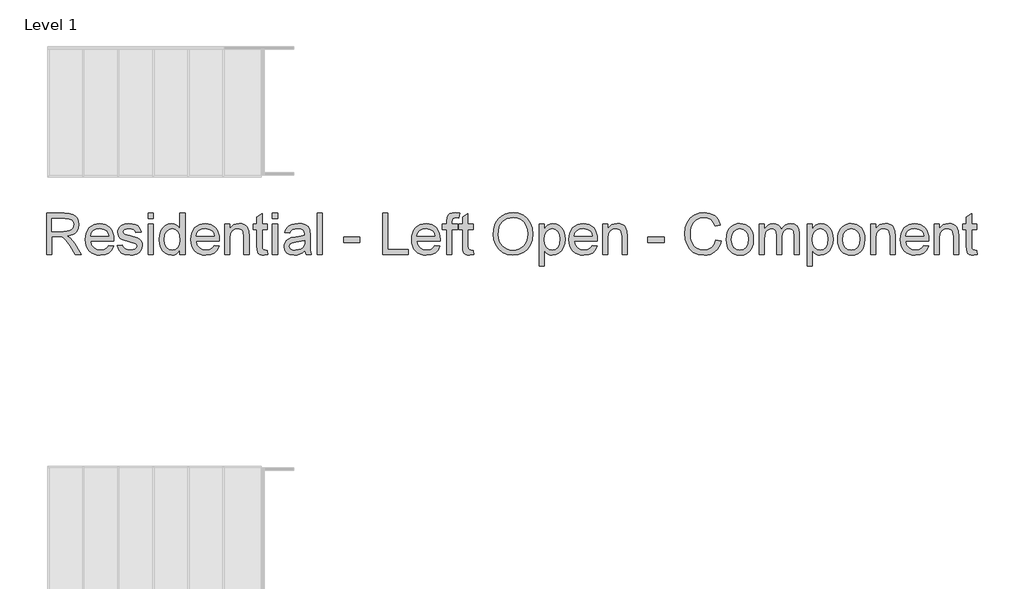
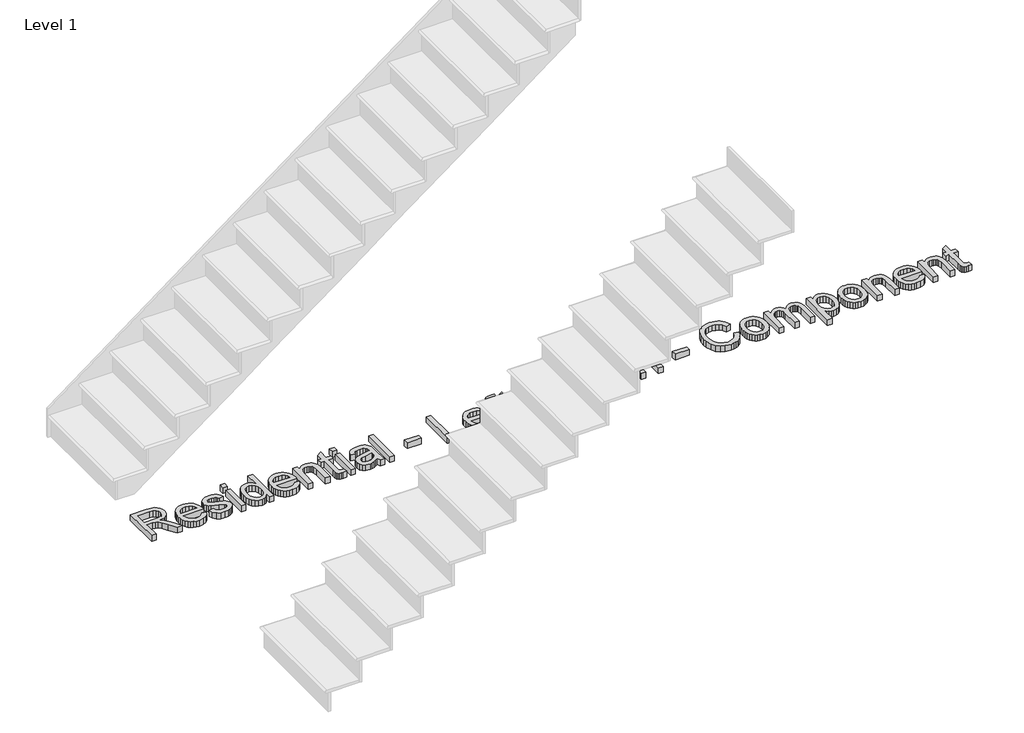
# One storey, part 9 of 15: 1 proxy.
"""IFC4 building model written with IfcOpenShell, lengths in millimetres."""

from ifc_helpers import new_model, si_unit, origin, origin_with_axes, place, context, project, spatial, polyline, outline, extrude, element, save

model = new_model("IFC4")

# Units and contexts
model_context = context("Model", 3, world=origin())
ifc_project = project(units=[si_unit("LENGTHUNIT", "METRE", prefix="MILLI")], contexts=[model_context])

# Site, building, storey
site = spatial("IfcSite", under=ifc_project)
building = spatial("IfcBuilding", under=site)
storey = spatial("IfcBuildingStorey", under=building, Name="Level 1", Elevation=0.0)

# Proxy
placement = place(None, origin())
element("IfcBuildingElementProxy", 1, Name="12\" Arial", ObjectType="12\" Arial", at=placement, inside=storey, context=model_context, shape_type="SweptSolid", body=[
    extrude(outline(polyline([(-27238.310174, 321.1208755), (-27238.310174, 621.2316447), (-27108.9899817, 621.2316447), (-27074.2328904, 619.2075822), (-27048.9458471, 613.1353947), (-27030.4636837, 601.9252024), (-27016.1212317, 584.4871255), (-27006.9167846, 562.8635438), (-27003.8486356, 539.096837), (-27008.9316885, 509.5327024), (-27024.1808471, 485.0241447), (-27035.7321993, 475.0366327), (-27050.0540442, 467.0548659), (-27087.0092125, 457.1085678), (-27065.6878664, 441.0626063), (-27035.2811356, 402.4497216), (-26985.238251, 321.1208755), (-27028.8334433, 321.1208755), (-27067.8859433, 383.3264524), (-27096.0945971, 424.5037601), (-27115.913924, 443.9567409), (-27133.7549817, 451.1004909), (-27155.5159433, 452.419337), (-27200.7963279, 452.419337), (-27200.7963279, 321.1208755), (-27238.310174, 321.1208755)]), holes=[polyline([(-27200.7963279, 489.9331832), (-27116.8297894, 489.9331832), (-27092.7150539, 491.261188), (-27074.003924, 495.2452024), (-27059.9179144, 502.1508274), (-27049.6785394, 512.2436639), (-27043.4414962, 524.4521495), (-27041.3624817, 537.7047216), (-27045.3281789, 556.003712), (-27057.2252702, 570.7491447), (-27077.6948615, 580.4756351), (-27107.3780587, 583.7177986), (-27200.7963279, 583.7177986), (-27200.7963279, 489.9331832)])]), origin_with_axes(), (0.0, 0.0, 1.0), 50.8),
    extrude(outline(polyline([(-26788.5836356, 386.7701063), (-26751.8024817, 382.0808755), (-26765.0550539, 354.3667889), (-26786.2023856, 333.6499139), (-26814.7682269, 320.736212), (-26850.2763279, 316.4316447), (-26873.5530466, 318.2885618), (-26894.2928183, 323.859313), (-26912.4956428, 333.1438983), (-26928.1615202, 346.1423178), (-26940.7592486, 362.4928046), (-26949.757626, 381.8335918), (-26955.1566524, 404.1646796), (-26956.9563279, 429.4860678), (-26955.1383351, 455.6660798), (-26949.6843567, 478.7413082), (-26940.5943928, 498.7117529), (-26927.8684433, 515.5774139), (-26912.2437798, 528.9765245), (-26894.457674, 538.5473178), (-26874.510126, 544.2897938), (-26852.4011356, 546.2039524), (-26831.0042305, 544.2943731), (-26811.6542846, 538.5656351), (-26794.3512978, 529.0177385), (-26779.0952702, 515.6506832), (-26766.6417906, 498.8216567), (-26757.7464481, 478.8878466), (-26752.4092426, 455.8492529), (-26750.630174, 429.7058755), (-26750.8499817, 419.5947216), (-26919.4424817, 419.5947216), (-26912.9489962, 391.5142889), (-26897.8646933, 370.8706832), (-26876.0945731, 358.1767889), (-26849.5436356, 353.9454909), (-26829.5777702, 355.9054428), (-26812.7624817, 361.7852986), (-26799.0977702, 371.9514043), (-26788.5836356, 386.7701063)]), holes=[polyline([(-26919.4424817, 457.1085678), (-26788.1440202, 457.1085678), (-26793.2179144, 476.9278947), (-26803.1642125, 491.1054909), (-26825.0350779, 504.2939524), (-26852.547674, 508.6901063), (-26877.8347173, 505.1823418), (-26898.743924, 494.6590486), (-26913.2787077, 478.2558995), (-26919.4424817, 457.1085678)])]), origin_with_axes(), (0.0, 0.0, 1.0), 50.8),
    extrude(outline(polyline([(-26727.1840202, 386.7701063), (-26689.670174, 391.459337), (-26683.7536837, 375.4133755), (-26672.3053664, 363.6170293), (-26655.2519529, 356.3633755), (-26632.520174, 353.9454909), (-26610.0631548, 356.1618851), (-26594.2736356, 362.8110678), (-26584.9318087, 372.4459716), (-26581.8178664, 383.6195293), (-26584.950126, 393.1811639), (-26594.3469048, 400.4714524), (-26632.9597894, 411.1687601), (-26689.4503664, 429.5227024), (-26703.747025, 438.7454668), (-26714.1054625, 450.9539524), (-26720.3974577, 465.3696736), (-26722.4947894, 481.2141447), (-26720.8095971, 495.7489284), (-26715.7540202, 509.1663563), (-26707.7859914, 520.9352264), (-26697.3634433, 530.524337), (-26673.5143087, 541.6246255), (-26641.2392125, 546.2039524), (-26616.8222414, 544.363063), (-26595.5924817, 538.8403947), (-26578.520751, 530.1763082), (-26566.5778664, 518.9111639), (-26558.6647894, 504.2115245), (-26553.6824817, 485.2439524), (-26591.1963279, 480.5547216), (-26595.9313519, 492.3602264), (-26605.3006548, 501.2532793), (-26619.3958231, 506.8308995), (-26638.3084433, 508.6901063), (-26659.8495971, 506.9133274), (-26674.2103664, 501.5829909), (-26682.288299, 493.8897216), (-26684.9809433, 485.0241447), (-26680.5115202, 474.1070293), (-26666.5170971, 465.8276063), (-26634.2053664, 457.8412601), (-26579.1435394, 440.1833755), (-26564.5995971, 431.7390966), (-26553.5725779, 420.1808755), (-26546.6211596, 405.4720774), (-26544.3040202, 387.5760678), (-26547.0241404, 369.075587), (-26555.184501, 351.6741447), (-26568.4737077, 336.7363803), (-26586.5803664, 325.6269332), (-26608.4512317, 318.7304668), (-26633.0330587, 316.4316447), (-26670.858299, 320.8644332), (-26698.4624817, 334.1627986), (-26716.8896933, 356.1802024), (-26727.1840202, 386.7701063)])), origin_with_axes(), (0.0, 0.0, 1.0), 50.8),
    extrude(outline(polyline([(-26502.1009433, 321.1208755), (-26502.1009433, 541.5147216), (-26464.5870971, 541.5147216), (-26464.5870971, 321.1208755), (-26502.1009433, 321.1208755)])), origin_with_axes(), (0.0, 0.0, 1.0), 50.8),
    extrude(outline(polyline([(-26502.1009433, 583.7177986), (-26502.1009433, 621.2316447), (-26464.5870971, 621.2316447), (-26464.5870971, 583.7177986), (-26502.1009433, 583.7177986)])), origin_with_axes(), (0.0, 0.0, 1.0), 50.8),
    extrude(outline(polyline([(-26272.3286356, 321.1208755), (-26272.3286356, 356.5099139), (-26283.5525659, 338.9756712), (-26297.1485875, 326.451212), (-26313.1167005, 318.9365365), (-26331.4569048, 316.4316447), (-26355.7090202, 320.0584716), (-26377.9095971, 330.9389524), (-26396.7031548, 348.3129188), (-26410.7342125, 371.4202024), (-26419.4715683, 399.3266207), (-26422.3840202, 431.0979909), (-26419.7005346, 462.4755389), (-26411.6500779, 490.8124139), (-26398.2418087, 514.4966928), (-26379.4848856, 531.9164524), (-26356.7989, 542.6320774), (-26331.6034433, 546.2039524), (-26313.249501, 543.648688), (-26297.0203664, 535.9828947), (-26283.2640683, 524.2323418), (-26272.3286356, 509.4227986), (-26272.3286356, 621.2316447), (-26234.8147894, 621.2316447), (-26234.8147894, 321.1208755), (-26272.3286356, 321.1208755)]), holes=[polyline([(-26384.870174, 431.2445293), (-26380.638876, 397.3117168), (-26367.9449817, 373.1786639), (-26349.4994529, 358.7537841), (-26328.013251, 353.9454909), (-26306.5362077, 358.5339764), (-26288.5577702, 372.2994332), (-26276.3859192, 395.4983034), (-26272.3286356, 428.3870293), (-26276.4591885, 464.3439043), (-26288.8508471, 489.2737601), (-26307.2872173, 503.8360197), (-26329.5519048, 508.6901063), (-26351.2579144, 504.0283514), (-26369.0440202, 490.043087), (-26380.9136356, 466.019938), (-26384.870174, 431.2445293)])]), origin_with_axes(), (0.0, 0.0, 1.0), 50.8),
    extrude(outline(polyline([(-26024.2390202, 386.7701063), (-25987.4578664, 382.0808755), (-26000.7104385, 354.3667889), (-26021.8577702, 333.6499139), (-26050.4236115, 320.736212), (-26085.9317125, 316.4316447), (-26109.2084313, 318.2885618), (-26129.9482029, 323.859313), (-26148.1510274, 333.1438983), (-26163.8169048, 346.1423178), (-26176.4146332, 362.4928046), (-26185.4130106, 381.8335918), (-26190.812037, 404.1646796), (-26192.6117125, 429.4860678), (-26190.7937197, 455.6660798), (-26185.3397414, 478.7413082), (-26176.2497774, 498.7117529), (-26163.5238279, 515.5774139), (-26147.8991644, 528.9765245), (-26130.1130587, 538.5473178), (-26110.1655106, 544.2897938), (-26088.0565202, 546.2039524), (-26066.6596152, 544.2943731), (-26047.3096692, 538.5656351), (-26030.0066825, 529.0177385), (-26014.7506548, 515.6506832), (-26002.2971753, 498.8216567), (-25993.4018327, 478.8878466), (-25988.0646272, 455.8492529), (-25986.2855587, 429.7058755), (-25986.5053664, 419.5947216), (-26155.0978664, 419.5947216), (-26148.6043808, 391.5142889), (-26133.5200779, 370.8706832), (-26111.7499577, 358.1767889), (-26085.1990202, 353.9454909), (-26065.2331548, 355.9054428), (-26048.4178664, 361.7852986), (-26034.7531548, 371.9514043), (-26024.2390202, 386.7701063)]), holes=[polyline([(-26155.0978664, 457.1085678), (-26023.7994048, 457.1085678), (-26028.873299, 476.9278947), (-26038.8195971, 491.1054909), (-26060.6904625, 504.2939524), (-26088.2030587, 508.6901063), (-26113.4901019, 505.1823418), (-26134.3993087, 494.6590486), (-26148.9340923, 478.2558995), (-26155.0978664, 457.1085678)])]), origin_with_axes(), (0.0, 0.0, 1.0), 50.8),
    extrude(outline(polyline([(-25948.7717125, 321.1208755), (-25948.7717125, 541.5147216), (-25911.2578664, 541.5147216), (-25911.2578664, 510.7416447), (-25898.2251019, 526.2564043), (-25882.5729625, 537.3383755), (-25864.3014481, 543.9875582), (-25843.4105587, 546.2039524), (-25824.9192365, 544.4180149), (-25807.9848856, 539.0602024), (-25793.8622414, 530.7990966), (-25783.8060394, 520.3032793), (-25772.5592125, 492.7174139), (-25770.5809433, 456.4491447), (-25770.5809433, 321.1208755), (-25808.0947894, 321.1208755), (-25808.0947894, 451.3935678), (-25812.417674, 484.5845293), (-25818.398275, 494.4667168), (-25827.6943087, 502.1325101), (-25839.6097173, 507.0507072), (-25853.4484433, 508.6901063), (-25875.4200539, 505.0083274), (-25894.149501, 493.9629909), (-25901.6344108, 484.9462962), (-25906.980775, 472.6233274), (-25911.2578664, 438.0585678), (-25911.2578664, 321.1208755), (-25948.7717125, 321.1208755)])), origin_with_axes(), (0.0, 0.0, 1.0), 50.8),
    extrude(outline(polyline([(-25639.2824817, 352.406837), (-25634.593251, 320.021837), (-25662.6553664, 316.4316447), (-25680.6612798, 317.9886159), (-25694.0878664, 322.6595293), (-25703.5762317, 329.8582313), (-25709.7674817, 338.9985678), (-25713.174501, 354.6965005), (-25714.310174, 381.5679909), (-25714.310174, 504.0008755), (-25742.4455587, 504.0008755), (-25742.4455587, 541.5147216), (-25714.310174, 541.5147216), (-25714.310174, 595.0745293), (-25676.7963279, 617.1285678), (-25676.7963279, 541.5147216), (-25639.2824817, 541.5147216), (-25639.2824817, 504.0008755), (-25676.7963279, 504.0008755), (-25676.7963279, 382.6670293), (-25674.8180587, 363.3239524), (-25668.407001, 356.4732793), (-25655.6215202, 353.9454909), (-25639.2824817, 352.406837)])), origin_with_axes(), (0.0, 0.0, 1.0), 50.8),
    extrude(outline(polyline([(-25601.7686356, 321.1208755), (-25601.7686356, 541.5147216), (-25564.2547894, 541.5147216), (-25564.2547894, 321.1208755), (-25601.7686356, 321.1208755)])), origin_with_axes(), (0.0, 0.0, 1.0), 50.8),
    extrude(outline(polyline([(-25601.7686356, 583.7177986), (-25601.7686356, 621.2316447), (-25564.2547894, 621.2316447), (-25564.2547894, 583.7177986), (-25601.7686356, 583.7177986)])), origin_with_axes(), (0.0, 0.0, 1.0), 50.8),
    extrude(outline(polyline([(-25367.3070971, 349.2562601), (-25385.2305827, 333.8880389), (-25403.6852702, 323.831837), (-25423.0924577, 318.2816928), (-25443.8734433, 316.4316447), (-25475.2235154, 320.8827505), (-25498.3491164, 334.2360678), (-25512.6091404, 354.5133274), (-25517.3624817, 379.7362601), (-25515.5673856, 395.2876543), (-25510.1820971, 409.4102986), (-25501.8751981, 421.4997216), (-25491.3152702, 430.9514524), (-25465.048251, 443.2606832), (-25432.5899817, 448.9024139), (-25394.2335394, 454.8372216), (-25367.5269048, 461.7977986), (-25367.3070971, 470.1504909), (-25369.8898375, 486.8925101), (-25377.6380587, 497.8462601), (-25394.9662317, 505.9791447), (-25419.1084433, 508.6901063), (-25441.4555587, 506.8858514), (-25457.0619048, 501.473087), (-25467.7042606, 491.4626784), (-25475.1594048, 475.8654909), (-25512.673251, 480.5547216), (-25506.1614481, 501.0701063), (-25496.4441164, 517.189337), (-25482.614549, 529.5168851), (-25463.7660394, 538.6572216), (-25440.7137077, 544.3172697), (-25414.272674, 546.2039524), (-25388.9123615, 544.5370774), (-25368.8091164, 539.5364524), (-25353.6515442, 532.0171976), (-25343.128251, 522.7944332), (-25336.1493567, 511.3919091), (-25331.6249817, 497.3333755), (-25329.793251, 464.5087601), (-25329.793251, 417.8362601), (-25327.888251, 352.6632793), (-25320.4147894, 321.1208755), (-25357.9286356, 321.1208755), (-25367.3070971, 349.2562601)]), holes=[polyline([(-25367.3070971, 424.2839524), (-25427.8274817, 412.7806832), (-25460.1025779, 406.699337), (-25474.7197894, 396.8079909), (-25479.8486356, 382.3739524), (-25477.0552462, 371.218712), (-25468.6750779, 362.0783755), (-25454.8913039, 355.978712), (-25435.8870971, 353.9454909), (-25415.7380587, 356.1893611), (-25397.9336356, 362.9209716), (-25383.4995971, 372.8397938), (-25373.4617125, 384.6452986), (-25369.0106067, 396.8079909), (-25367.5269048, 413.6599139), (-25367.3070971, 424.2839524)])]), origin_with_axes(), (0.0, 0.0, 1.0), 50.8),
    extrude(outline(polyline([(-25278.2117125, 321.1208755), (-25278.2117125, 621.2316447), (-25240.6978664, 621.2316447), (-25240.6978664, 321.1208755), (-25278.2117125, 321.1208755)])), origin_with_axes(), (0.0, 0.0, 1.0), 50.8),
    extrude(outline(polyline([(-25085.953251, 410.2162601), (-25085.953251, 447.7301063), (-24968.7224817, 447.7301063), (-24968.7224817, 410.2162601), (-25085.953251, 410.2162601)])), origin_with_axes(), (0.0, 0.0, 1.0), 50.8),
    extrude(outline(polyline([(-24804.5994048, 321.1208755), (-24804.5994048, 621.2316447), (-24767.0855587, 621.2316447), (-24767.0855587, 358.6347216), (-24617.030174, 358.6347216), (-24617.030174, 321.1208755), (-24804.5994048, 321.1208755)])), origin_with_axes(), (0.0, 0.0, 1.0), 50.8),
    extrude(outline(polyline([(-24425.2113279, 386.7701063), (-24388.430174, 382.0808755), (-24401.6827462, 354.3667889), (-24422.8300779, 333.6499139), (-24451.3959192, 320.736212), (-24486.9040202, 316.4316447), (-24510.180739, 318.2885618), (-24530.9205106, 323.859313), (-24549.1233351, 333.1438983), (-24564.7892125, 346.1423178), (-24577.3869409, 362.4928046), (-24586.3853183, 381.8335918), (-24591.7843447, 404.1646796), (-24593.5840202, 429.4860678), (-24591.7660274, 455.6660798), (-24586.312049, 478.7413082), (-24577.2220851, 498.7117529), (-24564.4961356, 515.5774139), (-24548.8714721, 528.9765245), (-24531.0853664, 538.5473178), (-24511.1378183, 544.2897938), (-24489.0288279, 546.2039524), (-24467.6319228, 544.2943731), (-24448.2819769, 538.5656351), (-24430.9789902, 529.0177385), (-24415.7229625, 515.6506832), (-24403.2694829, 498.8216567), (-24394.3741404, 478.8878466), (-24389.0369349, 455.8492529), (-24387.2578664, 429.7058755), (-24387.477674, 419.5947216), (-24556.070174, 419.5947216), (-24549.5766885, 391.5142889), (-24534.4923856, 370.8706832), (-24512.7222654, 358.1767889), (-24486.1713279, 353.9454909), (-24466.2054625, 355.9054428), (-24449.390174, 361.7852986), (-24435.7254625, 371.9514043), (-24425.2113279, 386.7701063)]), holes=[polyline([(-24556.070174, 457.1085678), (-24424.7717125, 457.1085678), (-24429.8456067, 476.9278947), (-24439.7919048, 491.1054909), (-24461.6627702, 504.2939524), (-24489.1753664, 508.6901063), (-24514.4624096, 505.1823418), (-24535.3716164, 494.6590486), (-24549.9064, 478.2558995), (-24556.070174, 457.1085678)])]), origin_with_axes(), (0.0, 0.0, 1.0), 50.8),
    extrude(outline(polyline([(-24340.3655587, 321.1208755), (-24340.3655587, 504.0008755), (-24373.190174, 504.0008755), (-24373.190174, 541.5147216), (-24340.3655587, 541.5147216), (-24340.3655587, 563.7152986), (-24336.4090202, 595.0012601), (-24328.8622894, 607.4753466), (-24317.2124817, 617.3483755), (-24300.9100779, 623.7777505), (-24279.4055587, 625.9208755), (-24245.1888279, 621.8177986), (-24250.6840202, 586.6485678), (-24272.2984433, 588.4070293), (-24286.5584673, 586.8500582), (-24295.9277702, 582.1791447), (-24301.1207269, 573.2586159), (-24302.8517125, 558.9527986), (-24302.8517125, 541.5147216), (-24260.6486356, 541.5147216), (-24260.6486356, 504.0008755), (-24302.8517125, 504.0008755), (-24302.8517125, 321.1208755), (-24340.3655587, 321.1208755)])), origin_with_axes(), (0.0, 0.0, 1.0), 50.8),
    extrude(outline(polyline([(-24148.1070971, 352.406837), (-24143.4178664, 320.021837), (-24171.4799817, 316.4316447), (-24189.4858952, 317.9886159), (-24202.9124817, 322.6595293), (-24212.4008471, 329.8582313), (-24218.5920971, 338.9985678), (-24221.9991164, 354.6965005), (-24223.1347894, 381.5679909), (-24223.1347894, 504.0008755), (-24251.270174, 504.0008755), (-24251.270174, 541.5147216), (-24223.1347894, 541.5147216), (-24223.1347894, 595.0745293), (-24185.6209433, 617.1285678), (-24185.6209433, 541.5147216), (-24148.1070971, 541.5147216), (-24148.1070971, 504.0008755), (-24185.6209433, 504.0008755), (-24185.6209433, 382.6670293), (-24183.642674, 363.3239524), (-24177.2316164, 356.4732793), (-24164.4461356, 353.9454909), (-24148.1070971, 352.406837)])), origin_with_axes(), (0.0, 0.0, 1.0), 50.8),
    extrude(outline(polyline([(-24002.7409433, 467.2197216), (-24000.2406308, 502.4210077), (-23992.7396933, 533.5833274), (-23980.2381308, 560.7066808), (-23962.7359433, 583.7910678), (-23941.2817966, 602.2228587), (-23916.9243567, 615.3884236), (-23889.6636236, 623.2877625), (-23859.4995971, 625.9208755), (-23820.1357029, 620.9752024), (-23784.838251, 606.1381832), (-23755.5305587, 582.4539043), (-23734.1359433, 550.9664524), (-23721.0573856, 513.1961639), (-23716.6978664, 470.6633755), (-23721.2863519, 427.5627505), (-23735.0518087, 389.2612601), (-23757.2340683, 357.7188563), (-23787.0729625, 334.8954909), (-23822.0681789, 321.0476063), (-23859.7194048, 316.4316447), (-23899.6877702, 321.5330149), (-23935.1867125, 336.8371255), (-23964.4211356, 360.9610197), (-23985.5959433, 392.5217409), (-23998.4546933, 428.8358034), (-24002.7409433, 467.2197216)]), holes=[polyline([(-23965.2270971, 466.8533755), (-23963.3518628, 441.983051), (-23957.7261596, 419.9061159), (-23948.3499878, 400.6225702), (-23935.2233471, 384.1324139), (-23919.2666825, 370.9256351), (-23901.4004385, 361.4922216), (-23881.6246152, 355.8321736), (-23859.9392125, 353.9454909), (-23837.8828844, 355.8504909), (-23817.8735154, 361.5654909), (-23799.9111055, 371.0904909), (-23783.9956548, 384.4254909), (-23770.9651801, 401.263676), (-23761.6576981, 421.2982313), (-23756.0732089, 444.5291567), (-23754.2117125, 470.9564524), (-23757.398924, 504.1657313), (-23766.9605587, 532.8689524), (-23782.6493327, 556.3425822), (-23804.2179625, 573.863087), (-23830.2376981, 584.7710438), (-23859.2797894, 588.4070293), (-23880.2118928, 586.6554368), (-23899.6328183, 581.4006591), (-23917.5425659, 572.6426964), (-23933.9411356, 560.3815486), (-23947.6287438, 544.0264825), (-23957.4056067, 522.9867649), (-23963.2717245, 497.2623959), (-23965.2270971, 466.8533755)])]), origin_with_axes(), (0.0, 0.0, 1.0), 50.8),
    extrude(outline(polyline([(-23669.8055587, 236.7147216), (-23669.8055587, 541.5147216), (-23632.2917125, 541.5147216), (-23632.2917125, 504.7335678), (-23620.055751, 522.8768611), (-23606.3544048, 535.8363563), (-23590.3817125, 543.6120534), (-23571.3317125, 546.2039524), (-23545.9622414, 542.5771255), (-23523.7799817, 531.6966447), (-23505.7191164, 514.2219332), (-23492.7138279, 490.8124139), (-23484.8557029, 463.1715966), (-23482.2363279, 433.0029909), (-23485.1945731, 400.9202264), (-23494.0693087, 372.2261639), (-23508.5766164, 348.3770293), (-23528.4325779, 330.8290486), (-23551.5581789, 320.0309957), (-23575.8744048, 316.4316447), (-23593.12015, 318.8403707), (-23608.5158471, 326.0665486), (-23621.69515, 336.9745053), (-23632.2917125, 350.4285678), (-23632.2917125, 236.7147216), (-23669.8055587, 236.7147216)]), holes=[polyline([(-23632.2917125, 429.559337), (-23628.2344289, 395.9287601), (-23616.0625779, 372.409337), (-23598.1024577, 358.5614524), (-23576.6803664, 353.9454909), (-23554.9102462, 358.7263082), (-23536.4921933, 373.0687601), (-23523.9356789, 397.4490966), (-23519.750174, 432.3435678), (-23523.8349337, 465.7909716), (-23536.0892125, 489.6401063), (-23554.0218567, 503.9276063), (-23575.1417125, 508.6901063), (-23596.3439962, 503.6253707), (-23614.9635394, 488.4311639), (-23627.9596692, 463.5837361), (-23632.2917125, 429.559337)])]), origin_with_axes(), (0.0, 0.0, 1.0), 50.8),
    extrude(outline(polyline([(-23285.728251, 386.7701063), (-23248.9470971, 382.0808755), (-23262.1996692, 354.3667889), (-23283.347001, 333.6499139), (-23311.9128423, 320.736212), (-23347.4209433, 316.4316447), (-23370.697662, 318.2885618), (-23391.4374337, 323.859313), (-23409.6402582, 333.1438983), (-23425.3061356, 346.1423178), (-23437.903864, 362.4928046), (-23446.9022414, 381.8335918), (-23452.3012678, 404.1646796), (-23454.1009433, 429.4860678), (-23452.2829505, 455.6660798), (-23446.8289721, 478.7413082), (-23437.7390082, 498.7117529), (-23425.0130587, 515.5774139), (-23409.3883952, 528.9765245), (-23391.6022894, 538.5473178), (-23371.6547414, 544.2897938), (-23349.545751, 546.2039524), (-23328.1488459, 544.2943731), (-23308.7989, 538.5656351), (-23291.4959132, 529.0177385), (-23276.2398856, 515.6506832), (-23263.786406, 498.8216567), (-23254.8910635, 478.8878466), (-23249.5538579, 455.8492529), (-23247.7747894, 429.7058755), (-23247.9945971, 419.5947216), (-23416.5870971, 419.5947216), (-23410.0936115, 391.5142889), (-23395.0093087, 370.8706832), (-23373.2391885, 358.1767889), (-23346.688251, 353.9454909), (-23326.7223856, 355.9054428), (-23309.9070971, 361.7852986), (-23296.2423856, 371.9514043), (-23285.728251, 386.7701063)]), holes=[polyline([(-23416.5870971, 457.1085678), (-23285.2886356, 457.1085678), (-23290.3625298, 476.9278947), (-23300.3088279, 491.1054909), (-23322.1796933, 504.2939524), (-23349.6922894, 508.6901063), (-23374.9793327, 505.1823418), (-23395.8885394, 494.6590486), (-23410.4233231, 478.2558995), (-23416.5870971, 457.1085678)])]), origin_with_axes(), (0.0, 0.0, 1.0), 50.8),
    extrude(outline(polyline([(-23210.2609433, 321.1208755), (-23210.2609433, 541.5147216), (-23172.7470971, 541.5147216), (-23172.7470971, 510.7416447), (-23159.7143327, 526.2564043), (-23144.0621933, 537.3383755), (-23125.7906789, 543.9875582), (-23104.8997894, 546.2039524), (-23086.4084673, 544.4180149), (-23069.4741164, 539.0602024), (-23055.3514721, 530.7990966), (-23045.2952702, 520.3032793), (-23034.0484433, 492.7174139), (-23032.070174, 456.4491447), (-23032.070174, 321.1208755), (-23069.5840202, 321.1208755), (-23069.5840202, 451.3935678), (-23073.9069048, 484.5845293), (-23079.8875058, 494.4667168), (-23089.1835394, 502.1325101), (-23101.0989481, 507.0507072), (-23114.937674, 508.6901063), (-23136.9092846, 505.0083274), (-23155.6387317, 493.9629909), (-23163.1236416, 484.9462962), (-23168.4700058, 472.6233274), (-23172.7470971, 438.0585678), (-23172.7470971, 321.1208755), (-23210.2609433, 321.1208755)])), origin_with_axes(), (0.0, 0.0, 1.0), 50.8),
    extrude(outline(polyline([(-22882.0147894, 410.2162601), (-22882.0147894, 447.7301063), (-22764.7840202, 447.7301063), (-22764.7840202, 410.2162601), (-22882.0147894, 410.2162601)])), origin_with_axes(), (0.0, 0.0, 1.0), 50.8),
    extrude(outline(polyline([(-22389.6455587, 427.8008755), (-22352.1317125, 418.129337), (-22359.5548015, 394.799956), (-22369.4415683, 374.4150822), (-22381.792013, 356.9747156), (-22396.6061356, 342.4788563), (-22413.5496452, 331.0832012), (-22432.288251, 322.9434476), (-22452.8219529, 318.0595954), (-22475.150751, 316.4316447), (-22518.6635154, 321.3590005), (-22553.2191164, 336.1410678), (-22579.7059433, 360.264962), (-22599.0123856, 393.2177986), (-22610.7995731, 431.9589043), (-22614.7286356, 473.4476063), (-22610.2866885, 517.2076543), (-22596.9608471, 554.9962601), (-22575.4471692, 585.6136399), (-22546.4417125, 607.8600101), (-22512.0418087, 621.4056591), (-22474.3447894, 625.9208755), (-22433.213275, 620.0776543), (-22415.3195551, 612.7736279), (-22399.2071933, 602.5479909), (-22385.1417906, 589.6709236), (-22373.3889481, 574.4126063), (-22356.8209433, 536.7522216), (-22394.3347894, 527.8133755), (-22407.3400779, 555.1702745), (-22425.1078664, 573.9363563), (-22447.8579625, 584.7893611), (-22475.810174, 588.4070293), (-22508.0303183, 584.3955389), (-22534.4988279, 572.3610678), (-22554.5837558, 553.5675101), (-22567.6531548, 529.2787601), (-22574.8243808, 501.8211159), (-22577.2147894, 473.5208755), (-22574.3847654, 438.8645293), (-22565.8946933, 408.8974139), (-22551.4240202, 384.7643611), (-22530.6521933, 367.6102024), (-22505.7498135, 357.3616688), (-22478.8874817, 353.9454909), (-22447.5740442, 358.598087), (-22421.4810394, 372.5558755), (-22401.780775, 395.6723178), (-22389.6455587, 427.8008755)])), origin_with_axes(), (0.0, 0.0, 1.0), 50.8),
    extrude(outline(polyline([(-22314.6178664, 431.3177986), (-22312.5892245, 459.8607433), (-22306.503299, 484.4563082), (-22296.3600899, 505.1044933), (-22282.1595971, 521.8052986), (-22267.8629385, 532.4797096), (-22252.0825779, 540.1042889), (-22234.8185154, 544.6790365), (-22216.070751, 546.2039524), (-22195.3744829, 544.3470353), (-22176.6610635, 538.7762841), (-22159.9304926, 529.4916988), (-22145.1827702, 516.4932793), (-22133.1460094, 500.2206411), (-22124.5483231, 481.1133995), (-22119.3897113, 459.1715546), (-22117.670174, 434.3951063), (-22120.7108471, 396.4965966), (-22129.8328664, 367.646837), (-22144.7706308, 346.0415726), (-22165.2585394, 329.8765486), (-22189.5930827, 319.7928707), (-22216.070751, 316.4316447), (-22237.0692546, 318.2816928), (-22255.9566885, 323.831837), (-22272.7330527, 333.0820774), (-22287.3983471, 346.0324139), (-22299.3068868, 362.4630389), (-22307.8129865, 382.1541447), (-22312.9166464, 405.1057313), (-22314.6178664, 431.3177986)]), holes=[polyline([(-22277.1040202, 431.3910678), (-22272.7628183, 397.439938), (-22259.7392125, 373.2519332), (-22240.1396933, 358.7721014), (-22216.070751, 353.9454909), (-22192.1117125, 358.7995774), (-22172.5488279, 373.361837), (-22159.5252221, 397.8703947), (-22155.1840202, 432.5633755), (-22159.5526981, 465.5253707), (-22172.6587317, 489.3836639), (-22192.2490923, 503.8634957), (-22216.070751, 508.6901063), (-22240.1396933, 503.881813), (-22259.7392125, 489.4569332), (-22272.7628183, 465.3238803), (-22277.1040202, 431.3910678)])]), origin_with_axes(), (0.0, 0.0, 1.0), 50.8),
    extrude(outline(polyline([(-22075.4670971, 321.1208755), (-22075.4670971, 541.5147216), (-22037.953251, 541.5147216), (-22037.953251, 505.2464524), (-22026.6697894, 521.9060438), (-22012.1624817, 534.9571255), (-21994.9258952, 543.3922457), (-21975.4545971, 546.2039524), (-21954.5911837, 543.3372938), (-21937.8674817, 534.7373178), (-21925.3750779, 520.9718611), (-21917.2055587, 502.6087601), (-21903.5316885, 521.6816567), (-21887.934501, 535.3051543), (-21870.4139962, 543.4792529), (-21850.970174, 546.2039524), (-21822.7706789, 541.6704188), (-21801.916424, 528.0698178), (-21789.0301981, 505.0358034), (-21784.7347894, 472.2020293), (-21784.7347894, 321.1208755), (-21822.2486356, 321.1208755), (-21822.2486356, 456.0827986), (-21825.728924, 487.4053947), (-21830.6196452, 496.0420053), (-21838.3312317, 502.8285678), (-21848.2500539, 507.2247216), (-21859.7624817, 508.6901063), (-21880.0855346, 504.9350582), (-21896.6535394, 493.6699139), (-21907.6714, 474.1253466), (-21911.3440202, 445.5320293), (-21911.3440202, 321.1208755), (-21948.8578664, 321.1208755), (-21948.8578664, 460.2591447), (-21951.0284673, 481.470587), (-21957.5402702, 496.6006832), (-21968.9977462, 505.6677505), (-21986.0053664, 508.6901063), (-22000.4577221, 506.6752024), (-22013.7744048, 500.6304909), (-22024.7647894, 490.7025101), (-22032.238251, 477.0377986), (-22036.524501, 458.0793851), (-22037.953251, 432.2702986), (-22037.953251, 321.1208755), (-22075.4670971, 321.1208755)])), origin_with_axes(), (0.0, 0.0, 1.0), 50.8),
    extrude(outline(polyline([(-21728.4640202, 236.7147216), (-21728.4640202, 541.5147216), (-21690.950174, 541.5147216), (-21690.950174, 504.7335678), (-21678.7142125, 522.8768611), (-21665.0128664, 535.8363563), (-21649.040174, 543.6120534), (-21629.990174, 546.2039524), (-21604.6207029, 542.5771255), (-21582.4384433, 531.6966447), (-21564.3775779, 514.2219332), (-21551.3722894, 490.8124139), (-21543.5141644, 463.1715966), (-21540.8947894, 433.0029909), (-21543.8530346, 400.9202264), (-21552.7277702, 372.2261639), (-21567.2350779, 348.3770293), (-21587.0910394, 330.8290486), (-21610.2166404, 320.0309957), (-21634.5328664, 316.4316447), (-21651.7786115, 318.8403707), (-21667.1743087, 326.0665486), (-21680.3536115, 336.9745053), (-21690.950174, 350.4285678), (-21690.950174, 236.7147216), (-21728.4640202, 236.7147216)]), holes=[polyline([(-21690.950174, 429.559337), (-21686.8928904, 395.9287601), (-21674.7210394, 372.409337), (-21656.7609192, 358.5614524), (-21635.3388279, 353.9454909), (-21613.5687077, 358.7263082), (-21595.1506548, 373.0687601), (-21582.5941404, 397.4490966), (-21578.4086356, 432.3435678), (-21582.4933952, 465.7909716), (-21594.747674, 489.6401063), (-21612.6803183, 503.9276063), (-21633.800174, 508.6901063), (-21655.0024577, 503.6253707), (-21673.622001, 488.4311639), (-21686.6181308, 463.5837361), (-21690.950174, 429.559337)])]), origin_with_axes(), (0.0, 0.0, 1.0), 50.8),
    extrude(outline(polyline([(-21508.070174, 431.3177986), (-21506.0415322, 459.8607433), (-21499.9556067, 484.4563082), (-21489.8123976, 505.1044933), (-21475.6119048, 521.8052986), (-21461.3152462, 532.4797096), (-21445.5348856, 540.1042889), (-21428.2708231, 544.6790365), (-21409.5230587, 546.2039524), (-21388.8267906, 544.3470353), (-21370.1133712, 538.7762841), (-21353.3828003, 529.4916988), (-21338.6350779, 516.4932793), (-21326.5983171, 500.2206411), (-21318.0006308, 481.1133995), (-21312.842019, 459.1715546), (-21311.1224817, 434.3951063), (-21314.1631548, 396.4965966), (-21323.285174, 367.646837), (-21338.2229385, 346.0415726), (-21358.7108471, 329.8765486), (-21383.0453904, 319.7928707), (-21409.5230587, 316.4316447), (-21430.5215623, 318.2816928), (-21449.4089962, 323.831837), (-21466.1853603, 333.0820774), (-21480.8506548, 346.0324139), (-21492.7591945, 362.4630389), (-21501.2652942, 382.1541447), (-21506.3689541, 405.1057313), (-21508.070174, 431.3177986)]), holes=[polyline([(-21470.5563279, 431.3910678), (-21466.215126, 397.439938), (-21453.1915202, 373.2519332), (-21433.592001, 358.7721014), (-21409.5230587, 353.9454909), (-21385.5640202, 358.7995774), (-21366.0011356, 373.361837), (-21352.9775298, 397.8703947), (-21348.6363279, 432.5633755), (-21353.0050058, 465.5253707), (-21366.1110394, 489.3836639), (-21385.7014, 503.8634957), (-21409.5230587, 508.6901063), (-21433.592001, 503.881813), (-21453.1915202, 489.4569332), (-21466.215126, 465.3238803), (-21470.5563279, 431.3910678)])]), origin_with_axes(), (0.0, 0.0, 1.0), 50.8),
    extrude(outline(polyline([(-21268.9194048, 321.1208755), (-21268.9194048, 541.5147216), (-21231.4055587, 541.5147216), (-21231.4055587, 510.7416447), (-21218.3727942, 526.2564043), (-21202.7206548, 537.3383755), (-21184.4491404, 543.9875582), (-21163.558251, 546.2039524), (-21145.0669289, 544.4180149), (-21128.1325779, 539.0602024), (-21114.0099337, 530.7990966), (-21103.9537317, 520.3032793), (-21092.7069048, 492.7174139), (-21090.7286356, 456.4491447), (-21090.7286356, 321.1208755), (-21128.2424817, 321.1208755), (-21128.2424817, 451.3935678), (-21132.5653664, 484.5845293), (-21138.5459673, 494.4667168), (-21147.842001, 502.1325101), (-21159.7574096, 507.0507072), (-21173.5961356, 508.6901063), (-21195.5677462, 505.0083274), (-21214.2971933, 493.9629909), (-21221.7821031, 484.9462962), (-21227.1284673, 472.6233274), (-21231.4055587, 438.0585678), (-21231.4055587, 321.1208755), (-21268.9194048, 321.1208755)])), origin_with_axes(), (0.0, 0.0, 1.0), 50.8),
    extrude(outline(polyline([(-20884.8420971, 386.7701063), (-20848.0609433, 382.0808755), (-20861.3135154, 354.3667889), (-20882.4608471, 333.6499139), (-20911.0266885, 320.736212), (-20946.5347894, 316.4316447), (-20969.8115082, 318.2885618), (-20990.5512798, 323.859313), (-21008.7541043, 333.1438983), (-21024.4199817, 346.1423178), (-21037.0177101, 362.4928046), (-21046.0160875, 381.8335918), (-21051.415114, 404.1646796), (-21053.2147894, 429.4860678), (-21051.3967966, 455.6660798), (-21045.9428183, 478.7413082), (-21036.8528543, 498.7117529), (-21024.1269048, 515.5774139), (-21008.5022414, 528.9765245), (-20990.7161356, 538.5473178), (-20970.7685875, 544.2897938), (-20948.6595971, 546.2039524), (-20927.2626921, 544.2943731), (-20907.9127462, 538.5656351), (-20890.6097594, 529.0177385), (-20875.3537317, 515.6506832), (-20862.9002522, 498.8216567), (-20854.0049096, 478.8878466), (-20848.6677041, 455.8492529), (-20846.8886356, 429.7058755), (-20847.1084433, 419.5947216), (-21015.7009433, 419.5947216), (-21009.2074577, 391.5142889), (-20994.1231548, 370.8706832), (-20972.3530346, 358.1767889), (-20945.8020971, 353.9454909), (-20925.8362317, 355.9054428), (-20909.0209433, 361.7852986), (-20895.3562317, 371.9514043), (-20884.8420971, 386.7701063)]), holes=[polyline([(-21015.7009433, 457.1085678), (-20884.4024817, 457.1085678), (-20889.476376, 476.9278947), (-20899.422674, 491.1054909), (-20921.2935394, 504.2939524), (-20948.8061356, 508.6901063), (-20974.0931789, 505.1823418), (-20995.0023856, 494.6590486), (-21009.5371692, 478.2558995), (-21015.7009433, 457.1085678)])]), origin_with_axes(), (0.0, 0.0, 1.0), 50.8),
    extrude(outline(polyline([(-20809.3747894, 321.1208755), (-20809.3747894, 541.5147216), (-20771.8609433, 541.5147216), (-20771.8609433, 510.7416447), (-20758.8281789, 526.2564043), (-20743.1760394, 537.3383755), (-20724.904525, 543.9875582), (-20704.0136356, 546.2039524), (-20685.5223135, 544.4180149), (-20668.5879625, 539.0602024), (-20654.4653183, 530.7990966), (-20644.4091164, 520.3032793), (-20633.1622894, 492.7174139), (-20631.1840202, 456.4491447), (-20631.1840202, 321.1208755), (-20668.6978664, 321.1208755), (-20668.6978664, 451.3935678), (-20673.020751, 484.5845293), (-20679.0013519, 494.4667168), (-20688.2973856, 502.1325101), (-20700.2127942, 507.0507072), (-20714.0515202, 508.6901063), (-20736.0231308, 505.0083274), (-20754.7525779, 493.9629909), (-20762.2374878, 484.9462962), (-20767.5838519, 472.6233274), (-20771.8609433, 438.0585678), (-20771.8609433, 321.1208755), (-20809.3747894, 321.1208755)])), origin_with_axes(), (0.0, 0.0, 1.0), 50.8),
    extrude(outline(polyline([(-20499.8855587, 352.406837), (-20495.1963279, 320.021837), (-20523.2584433, 316.4316447), (-20541.2643567, 317.9886159), (-20554.6909433, 322.6595293), (-20564.1793087, 329.8582313), (-20570.3705587, 338.9985678), (-20573.7775779, 354.6965005), (-20574.913251, 381.5679909), (-20574.913251, 504.0008755), (-20603.0486356, 504.0008755), (-20603.0486356, 541.5147216), (-20574.913251, 541.5147216), (-20574.913251, 595.0745293), (-20537.3994048, 617.1285678), (-20537.3994048, 541.5147216), (-20499.8855587, 541.5147216), (-20499.8855587, 504.0008755), (-20537.3994048, 504.0008755), (-20537.3994048, 382.6670293), (-20535.4211356, 363.3239524), (-20529.0100779, 356.4732793), (-20516.2245971, 353.9454909), (-20499.8855587, 352.406837)])), origin_with_axes(), (0.0, 0.0, 1.0), 50.8),
])

save(model, "model.ifc")
